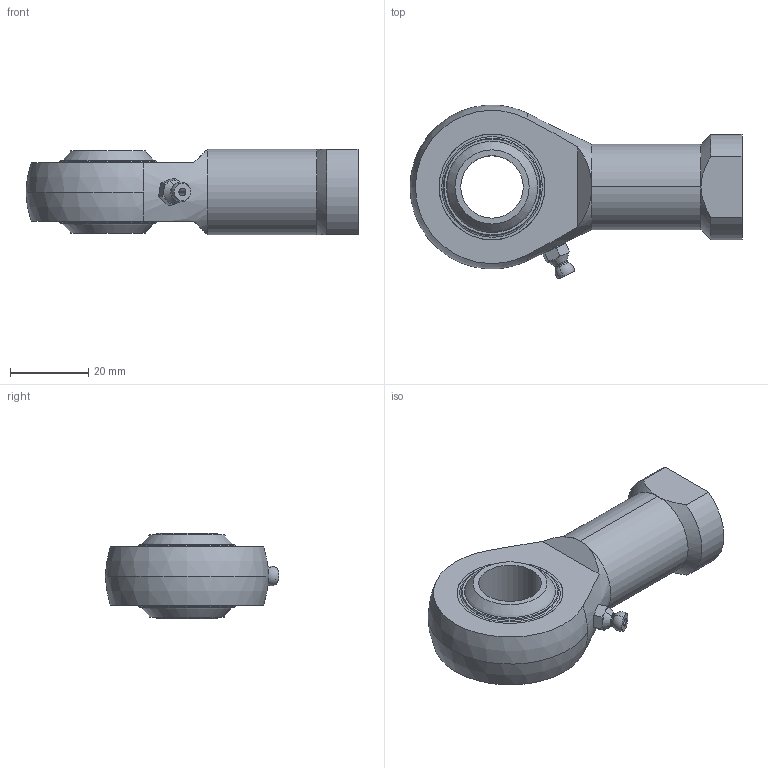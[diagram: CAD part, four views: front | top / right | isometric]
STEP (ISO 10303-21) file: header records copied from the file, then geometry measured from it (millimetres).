
FILE_DESCRIPTION (( 'STEP AP203' ), '1' );
FILE_NAME ('Default.step', '2014-02-11T16:37:58', ( 'User' ), ( '' ), 'SwSTEP 2.0', 'SolidWorks 2009', '' );
FILE_SCHEMA (( 'CONFIG_CONTROL_DESIGN' ));
Length unit declared in the file: millimetre
Products named in the file (5): Default; Part1; Part2; Part4; Part3
Assembly tree (5 placements, depth 2):
  Default
    Part4  x2
    Part1
    Part2
    Part3
Bounding box: 85 x 44.5 x 22 mm (x, y, z)
Volume: 29013.2 mm3; surface area: 16526.9 mm2
Topology: 46 solids, 46 shells, 183 faces, 520 edges, 349 vertices
Faces by surface type: sphere 98, plane 27, torus 22, cylinder 20, cone 16
Entity records: 4787 total; most frequent: CARTESIAN_POINT 911, DIRECTION 808, ORIENTED_EDGE 550, AXIS2_PLACEMENT_3D 383, EDGE_CURVE 275, CIRCLE 205, VERTEX_POINT 204, EDGE_LOOP 189
